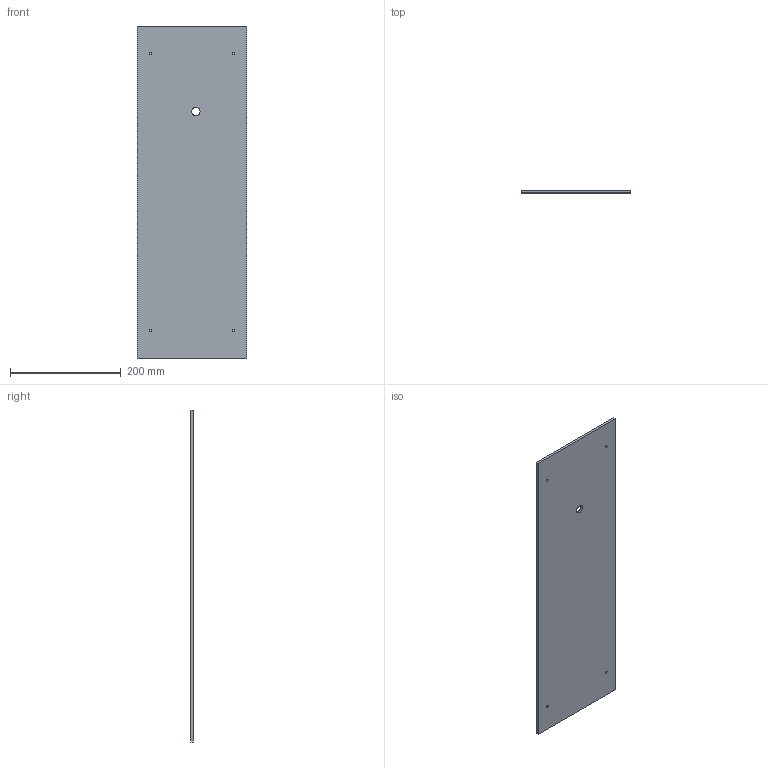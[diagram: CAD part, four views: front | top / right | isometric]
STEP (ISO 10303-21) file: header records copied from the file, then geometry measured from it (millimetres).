
FILE_DESCRIPTION(('Open CASCADE Model'),'2;1');
FILE_NAME('Open CASCADE Shape Model','2026-11-14T16:01:22',('Author'),( 'Open CASCADE'),'Open CASCADE STEP processor 7.9','Open CASCADE 7.9' ,'Unknown');
FILE_SCHEMA(('AUTOMOTIVE_DESIGN { 1 0 10303 214 1 1 1 1 }'));
Length unit declared in the file: millimetre
Products named in the file (1): Open CASCADE STEP translator 7.9 55
Bounding box: 198 x 4 x 600 mm (x, y, z)
Volume: 474238.7 mm3; surface area: 243918 mm2
Topology: 1 solids, 1 shells, 11 faces, 27 edges, 18 vertices
Faces by surface type: plane 6, cylinder 5
Full cylindrical faces by diameter (mm): 4.5 x4, 15 x1
Entity records: 712 total; most frequent: DIRECTION 115, CARTESIAN_POINT 111, LINE 61, VECTOR 61, ORIENTED_EDGE 54, PCURVE 54, DEFINITIONAL_REPRESENTATION 54, EDGE_CURVE 27
